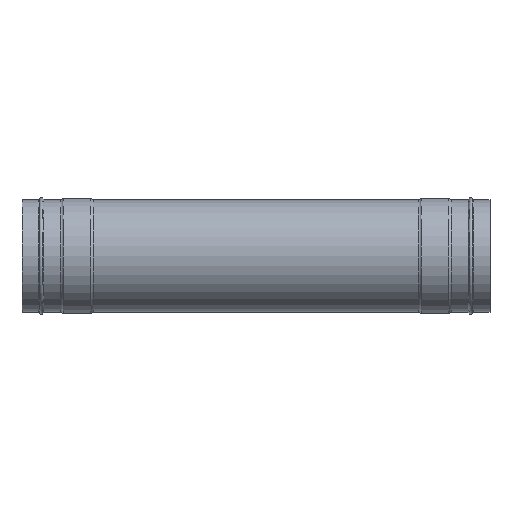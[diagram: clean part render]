
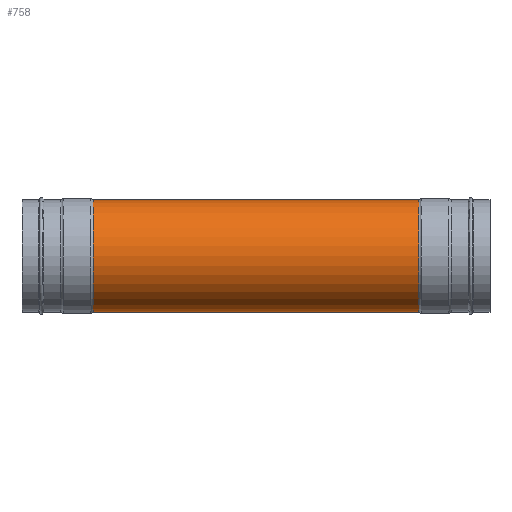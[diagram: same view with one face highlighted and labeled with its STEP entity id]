
A CAD part, top view. The second image highlights one B-rep face of the part: STEP entity #758.
In plain terms, the highlighted cylindrical face has radius 102.25 mm (diameter 204.5 mm), a partial arc.
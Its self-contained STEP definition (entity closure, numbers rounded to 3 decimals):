
#79=CARTESIAN_POINT('',(295.528,0.,0.));
#80=DIRECTION('',(1.,0.,0.));
#81=DIRECTION('',(0.,1.,0.));
#82=AXIS2_PLACEMENT_3D('',#79,#80,#81);
#87=CARTESIAN_POINT('',(-295.528,0.,0.));
#88=DIRECTION('',(-1.,0.,0.));
#89=DIRECTION('',(0.,-1.,0.));
#90=AXIS2_PLACEMENT_3D('',#87,#88,#89);
#175=DIRECTION('',(-1.,0.,0.));
#176=VECTOR('',#175,591.056);
#177=CARTESIAN_POINT('',(295.528,102.25,0.));
#178=LINE('',#177,#176);
#190=DIRECTION('',(-1.,0.,0.));
#191=VECTOR('',#190,591.056);
#192=CARTESIAN_POINT('',(295.528,-102.25,0.));
#193=LINE('',#192,#191);
#617=CARTESIAN_POINT('',(295.528,-102.25,0.));
#618=CARTESIAN_POINT('',(295.528,102.25,0.));
#619=VERTEX_POINT('',#617);
#620=VERTEX_POINT('',#618);
#625=CARTESIAN_POINT('',(-295.528,-102.25,0.));
#626=CARTESIAN_POINT('',(-295.528,102.25,0.));
#627=VERTEX_POINT('',#625);
#628=VERTEX_POINT('',#626);
#743=CARTESIAN_POINT('',(-467.5,0.,0.));
#744=DIRECTION('',(1.,0.,0.));
#745=DIRECTION('',(0.,-1.,0.));
#746=AXIS2_PLACEMENT_3D('',#743,#744,#745);
#747=CYLINDRICAL_SURFACE('',#746,102.25);
#749=ORIENTED_EDGE('',*,*,#748,.T.);
#751=ORIENTED_EDGE('',*,*,#750,.T.);
#753=ORIENTED_EDGE('',*,*,#752,.T.);
#755=ORIENTED_EDGE('',*,*,#754,.F.);
#756=EDGE_LOOP('',(#749,#751,#753,#755));
#757=FACE_OUTER_BOUND('',#756,.F.);
#83=CIRCLE('',#82,102.25);
#91=CIRCLE('',#90,102.25);
#748=EDGE_CURVE('',#620,#619,#83,.T.);
#750=EDGE_CURVE('',#619,#627,#193,.T.);
#752=EDGE_CURVE('',#627,#628,#91,.T.);
#754=EDGE_CURVE('',#620,#628,#178,.T.);
#758=ADVANCED_FACE('',(#757),#747,.T.);
